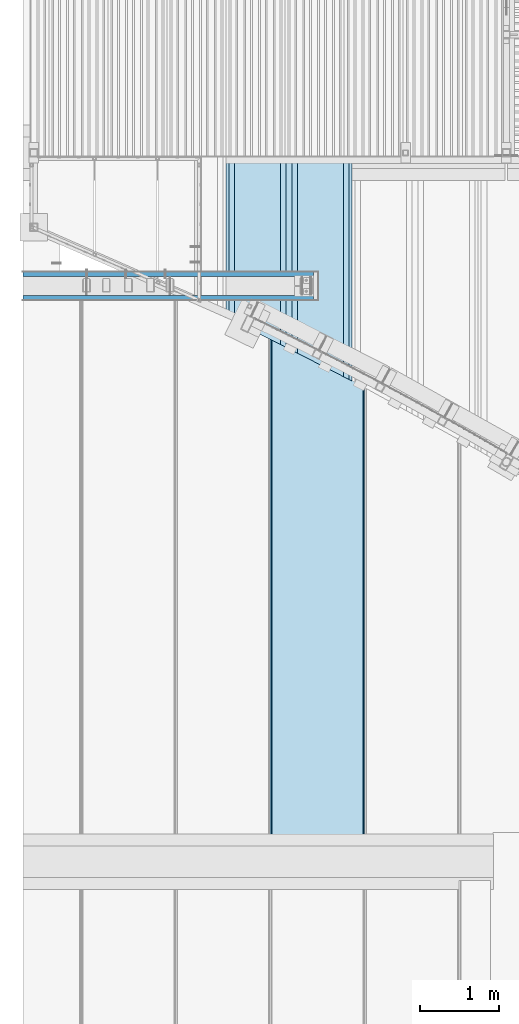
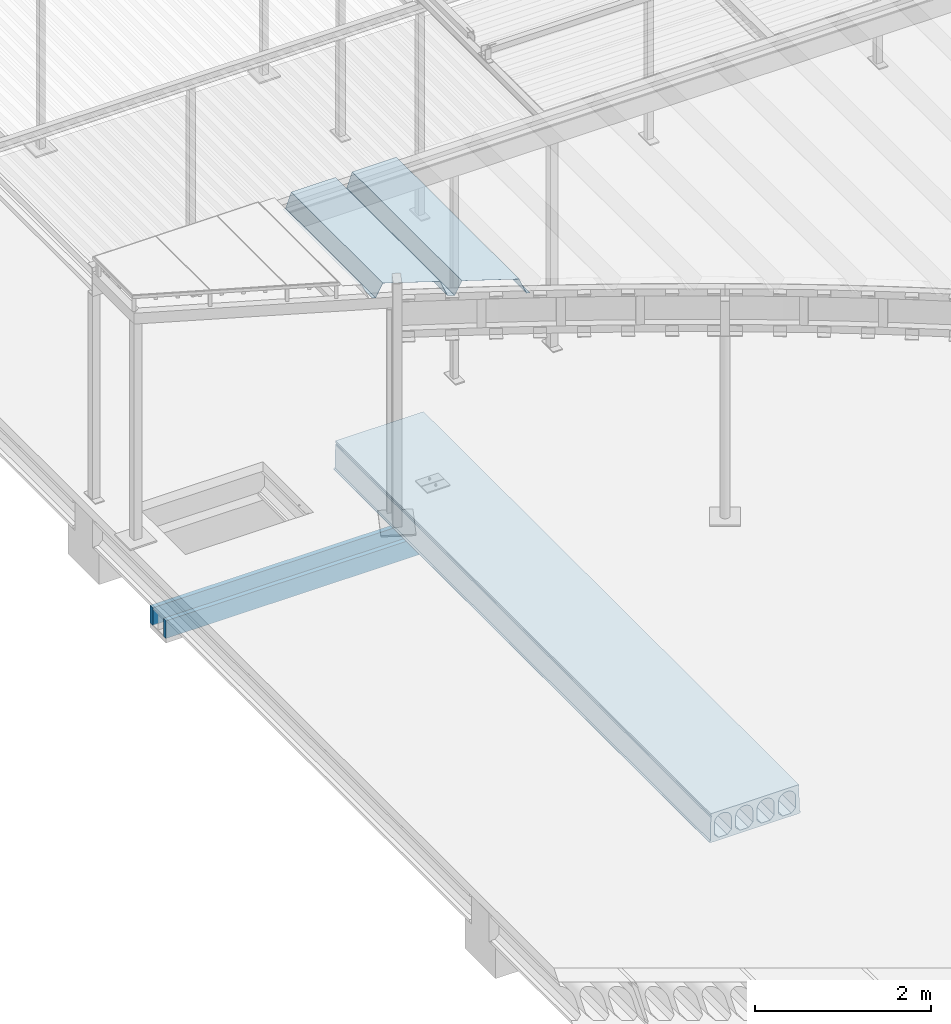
# One storey, part 55 of 98: 4 slabs.
"""IFC2X3 building model written with IfcOpenShell, lengths in millimetres."""

from ifc_helpers import new_model, entity, si_unit, converted_unit, derived_unit, direction, frame, origin_with_axes, place, context, subcontext, project, spatial, faceted_brep, material, type_object, element, save


model = new_model("IFC2X3")

# Units and contexts
model_context = context("Model", 3, precision=0.01, world=frame((0.0, 4.29681676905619e-09, 0.0)), true_north=direction((4.01073788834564e-13, 1.0)))
plan_context = context("Plan", 3, precision=0.01, world=frame((0.0, 4.29681676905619e-09, 0.0)), true_north=direction((4.01073788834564e-13, 1.0)))
body_context = subcontext(model_context, "Body", "Model", "MODEL_VIEW")
ifc_project = project(units=[converted_unit("PLANEANGLEUNIT", "DEGREE", entity("IfcPositiveLengthMeasure", 0.0174532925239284), si_unit("PLANEANGLEUNIT", "RADIAN"), dimensions=[0, 0, 0, 0, 0, 0, 0]), si_unit("AREAUNIT", "SQUARE_METRE"), si_unit("LENGTHUNIT", "METRE", prefix="MILLI"), si_unit("MASSUNIT", "GRAM", prefix="KILO"), si_unit("POWERUNIT", "WATT"), si_unit("PRESSUREUNIT", "PASCAL"), si_unit("FORCEUNIT", "NEWTON", prefix="KILO"), si_unit("ELECTRICCURRENTUNIT", "AMPERE"), si_unit("THERMODYNAMICTEMPERATUREUNIT", "DEGREE_CELSIUS"), si_unit("TIMEUNIT", "SECOND"), si_unit("VOLUMEUNIT", "CUBIC_METRE"), derived_unit("LINEARVELOCITYUNIT", [(si_unit("LENGTHUNIT", "METRE"), 1), (si_unit("TIMEUNIT", "SECOND"), -1)]), derived_unit("VOLUMETRICFLOWRATEUNIT", [(si_unit("VOLUMEUNIT", "CUBIC_METRE"), 1), (si_unit("TIMEUNIT", "SECOND"), -1)]), derived_unit("THERMALTRANSMITTANCEUNIT", [(si_unit("POWERUNIT", "WATT"), 1), (si_unit("THERMODYNAMICTEMPERATUREUNIT", "KELVIN"), -1), (si_unit("AREAUNIT", "SQUARE_METRE"), -1)])], contexts=[model_context, plan_context])

# Site, building, storey
site_placement = place(None, frame((0.0, -4.29681676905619e-09, 0.0), z_axis=(0.0, 0.0, 1.0), x_axis=(1.0, 0.0, 0.0)))
site = spatial("IfcSite", under=ifc_project, at=site_placement, Name="Gardermoen", CompositionType="ELEMENT")
building_placement = place(site_placement, frame((0.0, 4.29681676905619e-09, 0.0), z_axis=(0.0, 0.0, 1.0), x_axis=(1.0, 0.0, 0.0)))
building = spatial("IfcBuilding", under=site, at=building_placement, Name="TS", CompositionType="ELEMENT")
storey_placement = place(building_placement, origin_with_axes())
storey = spatial("IfcBuildingStorey", under=building, at=storey_placement, Name="D", CompositionType="ELEMENT", Elevation=0.0)

# Slabs
ifc_material_1 = material(Name="CONCRETE/C45/55")
slab_type_1 = type_object("IfcSlabType", Name="HD400", PredefinedType="NOTDEFINED")
slab_1_placement = place(storey_placement, frame((517599.999766, 405739.995625, 203600.0), z_axis=(0.0, 0.0, 1.0), x_axis=(0.0, 1.0, 0.0)))
element("IfcSlab", 1, at=slab_1_placement, inside=storey, type_object=slab_type_1, material=ifc_material_1, Name="HULLDEKKE", ObjectType="HD400", PredefinedType="FLOOR", context=body_context, shape_type="Brep", body=[
    faceted_brep([(0.0, 600.0, -190.0), (0.0, 600.0, -180.0), (8520.00875000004, 600.0, -180.0), (8520.00875000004, 600.0, -190.0), (0.0, 585.0, -170.0), (8520.00875000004, 585.0, -170.0), (0.0, 577.5, 145.0), (8520.00875000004, 577.5, 145.0), (0.0, 570.0, 160.0), (8520.00875000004, 570.0, 160.0), (0.0, 577.5, 175.0), (8520.00875000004, 577.5, 175.0), (0.0, 577.5, 200.0), (8520.00875000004, 577.5, 200.0), (0.0, -577.5, 200.0), (8520.00875000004, -577.5, 200.0), (0.0, -577.5, 175.0), (8520.00875000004, -577.5, 175.0), (0.0, -570.0, 160.0), (8520.00875000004, -570.0, 160.0), (0.0, -577.5, 145.0), (8520.00875000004, -577.5, 145.0), (0.0, -585.0, -170.0), (8520.00875000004, -585.0, -170.0), (0.0, -600.0, -180.0), (8520.00875000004, -600.0, -180.0), (0.0, -600.0, -190.0), (8520.00875000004, -600.0, -190.0), (0.0, -583.380004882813, -200.0), (8520.00875000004, -583.380004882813, -200.0), (0.0, 583.380004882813, -200.0), (8520.00875000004, 583.380004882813, -200.0), (0.0, -362.5, -160.0), (0.0, -477.5, -160.0), (8520.00875000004, -477.5, -160.0), (8520.00875000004, -362.5, -160.0), (0.0, -532.5, -105.0), (8520.00875000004, -532.5, -105.0), (0.0, -532.5, 47.5), (8520.00875000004, -532.5, 47.5), (0.0, -532.115755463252, 56.7901763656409), (8520.00875000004, -532.115755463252, 56.7901763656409), (0.0, -530.965646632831, 66.0168914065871), (8520.00875000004, -530.965646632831, 66.0168914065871), (0.0, -529.057529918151, 75.1171173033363), (8520.00875000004, -529.057529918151, 75.1171173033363), (0.0, -526.404439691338, 84.028690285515), (8520.00875000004, -526.404439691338, 84.028690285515), (0.0, -523.024499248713, 92.6907352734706), (8520.00875000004, -523.024499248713, 92.6907352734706), (0.0, -518.940797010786, 101.044081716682), (8520.00875000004, -518.940797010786, 101.044081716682), (0.0, -514.181228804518, 109.031667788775), (8520.00875000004, -514.181228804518, 109.031667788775), (0.0, -508.778307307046, 116.598930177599), (8520.00875000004, -508.778307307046, 116.598930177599), (0.0, -502.768939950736, 123.694176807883), (8520.00875000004, -502.768939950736, 123.694176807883), (0.0, -496.194176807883, 130.268939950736), (8520.00875000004, -496.194176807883, 130.268939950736), (0.0, -489.098930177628, 136.278307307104), (8520.00875000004, -489.098930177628, 136.278307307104), (0.0, -481.531667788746, 141.681228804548), (8520.00875000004, -481.531667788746, 141.681228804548), (0.0, -473.544081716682, 146.440797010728), (8520.00875000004, -473.544081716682, 146.440797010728), (0.0, -465.190735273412, 150.524499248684), (8520.00875000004, -465.190735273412, 150.524499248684), (0.0, -456.528690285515, 153.904439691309), (8520.00875000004, -456.528690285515, 153.904439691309), (0.0, -447.617117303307, 156.55752991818), (8520.00875000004, -447.617117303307, 156.55752991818), (0.0, -438.516891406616, 158.465646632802), (8520.00875000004, -438.516891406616, 158.465646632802), (0.0, -429.290176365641, 159.615755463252), (8520.00875000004, -429.290176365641, 159.615755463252), (0.0, -420.0, 160.0), (8520.00875000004, -420.0, 160.0), (0.0, -410.709823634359, 159.615755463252), (8520.00875000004, -410.709823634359, 159.615755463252), (0.0, -401.483108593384, 158.465646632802), (8520.00875000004, -401.483108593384, 158.465646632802), (0.0, -392.382882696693, 156.55752991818), (8520.00875000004, -392.382882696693, 156.55752991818), (0.0, -383.471309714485, 153.904439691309), (8520.00875000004, -383.471309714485, 153.904439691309), (0.0, -374.809264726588, 150.524499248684), (8520.00875000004, -374.809264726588, 150.524499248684), (0.0, -366.455918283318, 146.440797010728), (8520.00875000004, -366.455918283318, 146.440797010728), (0.0, -358.468332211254, 141.681228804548), (8520.00875000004, -358.468332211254, 141.681228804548), (0.0, -350.901069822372, 136.278307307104), (8520.00875000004, -350.901069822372, 136.278307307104), (0.0, -343.805823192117, 130.268939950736), (8520.00875000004, -343.805823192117, 130.268939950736), (0.0, -337.231060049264, 123.694176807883), (8520.00875000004, -337.231060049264, 123.694176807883), (0.0, -331.221692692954, 116.598930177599), (8520.00875000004, -331.221692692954, 116.598930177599), (0.0, -325.818771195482, 109.031667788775), (8520.00875000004, -325.818771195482, 109.031667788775), (0.0, -321.059202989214, 101.044081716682), (8520.00875000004, -321.059202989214, 101.044081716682), (0.0, -316.975500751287, 92.6907352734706), (8520.00875000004, -316.975500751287, 92.6907352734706), (0.0, -313.595560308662, 84.028690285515), (8520.00875000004, -313.595560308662, 84.028690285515), (0.0, -310.942470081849, 75.1171173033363), (8520.00875000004, -310.942470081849, 75.1171173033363), (0.0, -309.034353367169, 66.0168914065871), (8520.00875000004, -309.034353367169, 66.0168914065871), (0.0, -307.884244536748, 56.7901763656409), (8520.00875000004, -307.884244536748, 56.7901763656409), (0.0, -307.5, 47.5), (8520.00875000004, -307.5, 47.5), (0.0, -307.5, -105.0), (8520.00875000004, -307.5, -105.0), (0.0, -82.5, -160.0), (0.0, -197.5, -160.0), (8520.00875000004, -197.5, -160.0), (8520.00875000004, -82.5, -160.0), (0.0, -252.5, -105.0), (8520.00875000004, -252.5, -105.0), (0.0, -252.5, 47.5), (8520.00875000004, -252.5, 47.5), (0.0, -252.115755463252, 56.7901763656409), (8520.00875000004, -252.115755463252, 56.7901763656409), (0.0, -250.965646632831, 66.0168914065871), (8520.00875000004, -250.965646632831, 66.0168914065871), (0.0, -249.057529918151, 75.1171173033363), (8520.00875000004, -249.057529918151, 75.1171173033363), (0.0, -246.404439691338, 84.028690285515), (8520.00875000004, -246.404439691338, 84.028690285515), (0.0, -243.024499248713, 92.6907352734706), (8520.00875000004, -243.024499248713, 92.6907352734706), (0.0, -238.940797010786, 101.044081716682), (8520.00875000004, -238.940797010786, 101.044081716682), (0.0, -234.181228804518, 109.031667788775), (8520.00875000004, -234.181228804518, 109.031667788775), (0.0, -228.778307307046, 116.598930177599), (8520.00875000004, -228.778307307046, 116.598930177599), (0.0, -222.768939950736, 123.694176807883), (8520.00875000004, -222.768939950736, 123.694176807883), (0.0, -216.194176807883, 130.268939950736), (8520.00875000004, -216.194176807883, 130.268939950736), (0.0, -209.098930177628, 136.278307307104), (8520.00875000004, -209.098930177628, 136.278307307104), (0.0, -201.531667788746, 141.681228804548), (8520.00875000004, -201.531667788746, 141.681228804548), (0.0, -193.544081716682, 146.440797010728), (8520.00875000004, -193.544081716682, 146.440797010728), (0.0, -185.190735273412, 150.524499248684), (8520.00875000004, -185.190735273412, 150.524499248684), (0.0, -176.528690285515, 153.904439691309), (8520.00875000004, -176.528690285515, 153.904439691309), (0.0, -167.617117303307, 156.55752991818), (8520.00875000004, -167.617117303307, 156.55752991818), (0.0, -158.516891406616, 158.465646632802), (8520.00875000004, -158.516891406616, 158.465646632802), (0.0, -149.290176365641, 159.615755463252), (8520.00875000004, -149.290176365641, 159.615755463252), (0.0, -140.0, 160.0), (8520.00875000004, -140.0, 160.0), (0.0, -130.709823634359, 159.615755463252), (8520.00875000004, -130.709823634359, 159.615755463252), (0.0, -121.483108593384, 158.465646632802), (8520.00875000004, -121.483108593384, 158.465646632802), (0.0, -112.382882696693, 156.55752991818), (8520.00875000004, -112.382882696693, 156.55752991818), (0.0, -103.471309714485, 153.904439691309), (8520.00875000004, -103.471309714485, 153.904439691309), (0.0, -94.8092647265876, 150.524499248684), (8520.00875000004, -94.8092647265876, 150.524499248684), (0.0, -86.4559182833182, 146.440797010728), (8520.00875000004, -86.4559182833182, 146.440797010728), (0.0, -78.4683322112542, 141.681228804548), (8520.00875000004, -78.4683322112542, 141.681228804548), (0.0, -70.9010698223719, 136.278307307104), (8520.00875000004, -70.9010698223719, 136.278307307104), (0.0, -63.8058231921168, 130.268939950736), (8520.00875000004, -63.8058231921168, 130.268939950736), (0.0, -57.2310600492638, 123.694176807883), (8520.00875000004, -57.2310600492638, 123.694176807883), (0.0, -51.2216926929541, 116.598930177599), (8520.00875000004, -51.2216926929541, 116.598930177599), (0.0, -45.8187711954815, 109.031667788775), (8520.00875000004, -45.8187711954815, 109.031667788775), (0.0, -41.0592029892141, 101.044081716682), (8520.00875000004, -41.0592029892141, 101.044081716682), (0.0, -36.9755007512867, 92.6907352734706), (8520.00875000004, -36.9755007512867, 92.6907352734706), (0.0, -33.5955603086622, 84.028690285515), (8520.00875000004, -33.5955603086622, 84.028690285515), (0.0, -30.942470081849, 75.1171173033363), (8520.00875000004, -30.942470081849, 75.1171173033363), (0.0, -29.0343533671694, 66.0168914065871), (8520.00875000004, -29.0343533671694, 66.0168914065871), (0.0, -27.8842445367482, 56.7901763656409), (8520.00875000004, -27.8842445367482, 56.7901763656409), (0.0, -27.5, 47.5), (8520.00875000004, -27.5, 47.5), (0.0, -27.5, -105.0), (8520.00875000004, -27.5, -105.0), (0.0, 197.5, -160.0), (0.0, 82.5, -160.0), (8520.00875000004, 82.5, -160.0), (8520.00875000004, 197.5, -160.0), (0.0, 27.5, -105.0), (8520.00875000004, 27.5, -105.0), (0.0, 27.5, 47.5), (8520.00875000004, 27.5, 47.5), (0.0, 27.8842445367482, 56.7901763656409), (8520.00875000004, 27.8842445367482, 56.7901763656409), (0.0, 29.0343533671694, 66.0168914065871), (8520.00875000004, 29.0343533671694, 66.0168914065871), (0.0, 30.942470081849, 75.1171173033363), (8520.00875000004, 30.942470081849, 75.1171173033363), (0.0, 33.5955603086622, 84.028690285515), (8520.00875000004, 33.5955603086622, 84.028690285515), (0.0, 36.9755007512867, 92.6907352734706), (8520.00875000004, 36.9755007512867, 92.6907352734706), (0.0, 41.0592029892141, 101.044081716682), (8520.00875000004, 41.0592029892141, 101.044081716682), (0.0, 45.8187711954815, 109.031667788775), (8520.00875000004, 45.8187711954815, 109.031667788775), (0.0, 51.2216926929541, 116.598930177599), (8520.00875000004, 51.2216926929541, 116.598930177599), (0.0, 57.2310600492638, 123.694176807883), (8520.00875000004, 57.2310600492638, 123.694176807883), (0.0, 63.8058231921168, 130.268939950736), (8520.00875000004, 63.8058231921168, 130.268939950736), (0.0, 70.9010698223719, 136.278307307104), (8520.00875000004, 70.9010698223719, 136.278307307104), (0.0, 78.4683322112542, 141.681228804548), (8520.00875000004, 78.4683322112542, 141.681228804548), (0.0, 86.4559182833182, 146.440797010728), (8520.00875000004, 86.4559182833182, 146.440797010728), (0.0, 94.8092647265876, 150.524499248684), (8520.00875000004, 94.8092647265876, 150.524499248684), (0.0, 103.471309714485, 153.904439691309), (8520.00875000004, 103.471309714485, 153.904439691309), (0.0, 112.382882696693, 156.55752991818), (8520.00875000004, 112.382882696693, 156.55752991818), (0.0, 121.483108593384, 158.465646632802), (8520.00875000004, 121.483108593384, 158.465646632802), (0.0, 130.709823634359, 159.615755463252), (8520.00875000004, 130.709823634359, 159.615755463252), (0.0, 140.0, 160.0), (8520.00875000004, 140.0, 160.0), (0.0, 149.290176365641, 159.615755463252), (8520.00875000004, 149.290176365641, 159.615755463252), (0.0, 158.516891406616, 158.465646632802), (8520.00875000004, 158.516891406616, 158.465646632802), (0.0, 167.617117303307, 156.55752991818), (8520.00875000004, 167.617117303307, 156.55752991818), (0.0, 176.528690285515, 153.904439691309), (8520.00875000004, 176.528690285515, 153.904439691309), (0.0, 185.190735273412, 150.524499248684), (8520.00875000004, 185.190735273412, 150.524499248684), (0.0, 193.544081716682, 146.440797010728), (8520.00875000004, 193.544081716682, 146.440797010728), (0.0, 201.531667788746, 141.681228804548), (8520.00875000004, 201.531667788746, 141.681228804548), (0.0, 209.098930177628, 136.278307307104), (8520.00875000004, 209.098930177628, 136.278307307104), (0.0, 216.194176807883, 130.268939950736), (8520.00875000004, 216.194176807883, 130.268939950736), (0.0, 222.768939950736, 123.694176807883), (8520.00875000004, 222.768939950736, 123.694176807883), (0.0, 228.778307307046, 116.598930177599), (8520.00875000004, 228.778307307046, 116.598930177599), (0.0, 234.181228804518, 109.031667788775), (8520.00875000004, 234.181228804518, 109.031667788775), (0.0, 238.940797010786, 101.044081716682), (8520.00875000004, 238.940797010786, 101.044081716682), (0.0, 243.024499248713, 92.6907352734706), (8520.00875000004, 243.024499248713, 92.6907352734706), (0.0, 246.404439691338, 84.028690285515), (8520.00875000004, 246.404439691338, 84.028690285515), (0.0, 249.057529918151, 75.1171173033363), (8520.00875000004, 249.057529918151, 75.1171173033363), (0.0, 250.965646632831, 66.0168914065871), (8520.00875000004, 250.965646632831, 66.0168914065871), (0.0, 252.115755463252, 56.7901763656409), (8520.00875000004, 252.115755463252, 56.7901763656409), (0.0, 252.5, 47.5), (8520.00875000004, 252.5, 47.5), (0.0, 252.5, -105.0), (8520.00875000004, 252.5, -105.0), (0.0, 477.5, -160.0), (0.0, 362.5, -160.0), (8520.00875000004, 362.5, -160.0), (8520.00875000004, 477.5, -160.0), (0.0, 307.5, -105.0), (8520.00875000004, 307.5, -105.0), (0.0, 307.5, 47.5), (8520.00875000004, 307.5, 47.5), (0.0, 307.884244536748, 56.7901763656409), (8520.00875000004, 307.884244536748, 56.7901763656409), (0.0, 309.034353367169, 66.0168914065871), (8520.00875000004, 309.034353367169, 66.0168914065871), (0.0, 310.942470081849, 75.1171173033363), (8520.00875000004, 310.942470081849, 75.1171173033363), (0.0, 313.595560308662, 84.028690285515), (8520.00875000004, 313.595560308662, 84.028690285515), (0.0, 316.975500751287, 92.6907352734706), (8520.00875000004, 316.975500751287, 92.6907352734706), (0.0, 321.059202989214, 101.044081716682), (8520.00875000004, 321.059202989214, 101.044081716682), (0.0, 325.818771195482, 109.031667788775), (8520.00875000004, 325.818771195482, 109.031667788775), (0.0, 331.221692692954, 116.598930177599), (8520.00875000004, 331.221692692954, 116.598930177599), (0.0, 337.231060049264, 123.694176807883), (8520.00875000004, 337.231060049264, 123.694176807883), (0.0, 343.805823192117, 130.268939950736), (8520.00875000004, 343.805823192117, 130.268939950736), (0.0, 350.901069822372, 136.278307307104), (8520.00875000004, 350.901069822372, 136.278307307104), (0.0, 358.468332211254, 141.681228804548), (8520.00875000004, 358.468332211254, 141.681228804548), (0.0, 366.455918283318, 146.440797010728), (8520.00875000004, 366.455918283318, 146.440797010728), (0.0, 374.809264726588, 150.524499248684), (8520.00875000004, 374.809264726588, 150.524499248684), (0.0, 383.471309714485, 153.904439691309), (8520.00875000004, 383.471309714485, 153.904439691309), (0.0, 392.382882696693, 156.55752991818), (8520.00875000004, 392.382882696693, 156.55752991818), (0.0, 401.483108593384, 158.465646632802), (8520.00875000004, 401.483108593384, 158.465646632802), (0.0, 410.709823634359, 159.615755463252), (8520.00875000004, 410.709823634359, 159.615755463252), (0.0, 420.0, 160.0), (8520.00875000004, 420.0, 160.0), (0.0, 429.290176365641, 159.615755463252), (8520.00875000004, 429.290176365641, 159.615755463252), (0.0, 438.516891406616, 158.465646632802), (8520.00875000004, 438.516891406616, 158.465646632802), (0.0, 447.617117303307, 156.55752991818), (8520.00875000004, 447.617117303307, 156.55752991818), (0.0, 456.528690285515, 153.904439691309), (8520.00875000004, 456.528690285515, 153.904439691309), (0.0, 465.190735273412, 150.524499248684), (8520.00875000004, 465.190735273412, 150.524499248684), (0.0, 473.544081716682, 146.440797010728), (8520.00875000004, 473.544081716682, 146.440797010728), (0.0, 481.531667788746, 141.681228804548), (8520.00875000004, 481.531667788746, 141.681228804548), (0.0, 489.098930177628, 136.278307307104), (8520.00875000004, 489.098930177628, 136.278307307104), (0.0, 496.194176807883, 130.268939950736), (8520.00875000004, 496.194176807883, 130.268939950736), (0.0, 502.768939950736, 123.694176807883), (8520.00875000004, 502.768939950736, 123.694176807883), (0.0, 508.778307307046, 116.598930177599), (8520.00875000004, 508.778307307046, 116.598930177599), (0.0, 514.181228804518, 109.031667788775), (8520.00875000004, 514.181228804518, 109.031667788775), (0.0, 518.940797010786, 101.044081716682), (8520.00875000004, 518.940797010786, 101.044081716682), (0.0, 523.024499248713, 92.6907352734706), (8520.00875000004, 523.024499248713, 92.6907352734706), (0.0, 526.404439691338, 84.028690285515), (8520.00875000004, 526.404439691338, 84.028690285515), (0.0, 529.057529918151, 75.1171173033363), (8520.00875000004, 529.057529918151, 75.1171173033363), (0.0, 530.965646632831, 66.0168914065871), (8520.00875000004, 530.965646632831, 66.0168914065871), (0.0, 532.115755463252, 56.7901763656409), (8520.00875000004, 532.115755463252, 56.7901763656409), (0.0, 532.5, 47.5), (8520.00875000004, 532.5, 47.5), (0.0, 532.5, -105.0), (8520.00875000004, 532.5, -105.0)], [[[0, 1, 2, 3]], [[1, 4, 5, 2]], [[4, 6, 7, 5]], [[6, 8, 9, 7]], [[8, 10, 11, 9]], [[10, 12, 13, 11]], [[12, 14, 15, 13]], [[14, 16, 17, 15]], [[16, 18, 19, 17]], [[18, 20, 21, 19]], [[20, 22, 23, 21]], [[22, 24, 25, 23]], [[24, 26, 27, 25]], [[26, 28, 29, 27]], [[28, 30, 31, 29]], [[30, 0, 3, 31]], [[32, 33, 34, 35]], [[33, 36, 37, 34]], [[36, 38, 39, 37]], [[38, 40, 41, 39]], [[40, 42, 43, 41]], [[42, 44, 45, 43]], [[44, 46, 47, 45]], [[46, 48, 49, 47]], [[48, 50, 51, 49]], [[50, 52, 53, 51]], [[52, 54, 55, 53]], [[54, 56, 57, 55]], [[56, 58, 59, 57]], [[58, 60, 61, 59]], [[60, 62, 63, 61]], [[62, 64, 65, 63]], [[64, 66, 67, 65]], [[66, 68, 69, 67]], [[68, 70, 71, 69]], [[70, 72, 73, 71]], [[72, 74, 75, 73]], [[74, 76, 77, 75]], [[76, 78, 79, 77]], [[78, 80, 81, 79]], [[80, 82, 83, 81]], [[82, 84, 85, 83]], [[84, 86, 87, 85]], [[86, 88, 89, 87]], [[88, 90, 91, 89]], [[90, 92, 93, 91]], [[92, 94, 95, 93]], [[94, 96, 97, 95]], [[96, 98, 99, 97]], [[98, 100, 101, 99]], [[100, 102, 103, 101]], [[102, 104, 105, 103]], [[104, 106, 107, 105]], [[106, 108, 109, 107]], [[108, 110, 111, 109]], [[110, 112, 113, 111]], [[112, 114, 115, 113]], [[114, 116, 117, 115]], [[116, 32, 35, 117]], [[118, 119, 120, 121]], [[119, 122, 123, 120]], [[122, 124, 125, 123]], [[124, 126, 127, 125]], [[126, 128, 129, 127]], [[128, 130, 131, 129]], [[130, 132, 133, 131]], [[132, 134, 135, 133]], [[134, 136, 137, 135]], [[136, 138, 139, 137]], [[138, 140, 141, 139]], [[140, 142, 143, 141]], [[142, 144, 145, 143]], [[144, 146, 147, 145]], [[146, 148, 149, 147]], [[148, 150, 151, 149]], [[150, 152, 153, 151]], [[152, 154, 155, 153]], [[154, 156, 157, 155]], [[156, 158, 159, 157]], [[158, 160, 161, 159]], [[160, 162, 163, 161]], [[162, 164, 165, 163]], [[164, 166, 167, 165]], [[166, 168, 169, 167]], [[168, 170, 171, 169]], [[170, 172, 173, 171]], [[172, 174, 175, 173]], [[174, 176, 177, 175]], [[176, 178, 179, 177]], [[178, 180, 181, 179]], [[180, 182, 183, 181]], [[182, 184, 185, 183]], [[184, 186, 187, 185]], [[186, 188, 189, 187]], [[188, 190, 191, 189]], [[190, 192, 193, 191]], [[192, 194, 195, 193]], [[194, 196, 197, 195]], [[196, 198, 199, 197]], [[198, 200, 201, 199]], [[200, 202, 203, 201]], [[202, 118, 121, 203]], [[204, 205, 206, 207]], [[205, 208, 209, 206]], [[208, 210, 211, 209]], [[210, 212, 213, 211]], [[212, 214, 215, 213]], [[214, 216, 217, 215]], [[216, 218, 219, 217]], [[218, 220, 221, 219]], [[220, 222, 223, 221]], [[222, 224, 225, 223]], [[224, 226, 227, 225]], [[226, 228, 229, 227]], [[228, 230, 231, 229]], [[230, 232, 233, 231]], [[232, 234, 235, 233]], [[234, 236, 237, 235]], [[236, 238, 239, 237]], [[238, 240, 241, 239]], [[240, 242, 243, 241]], [[242, 244, 245, 243]], [[244, 246, 247, 245]], [[246, 248, 249, 247]], [[248, 250, 251, 249]], [[250, 252, 253, 251]], [[252, 254, 255, 253]], [[254, 256, 257, 255]], [[256, 258, 259, 257]], [[258, 260, 261, 259]], [[260, 262, 263, 261]], [[262, 264, 265, 263]], [[264, 266, 267, 265]], [[266, 268, 269, 267]], [[268, 270, 271, 269]], [[270, 272, 273, 271]], [[272, 274, 275, 273]], [[274, 276, 277, 275]], [[276, 278, 279, 277]], [[278, 280, 281, 279]], [[280, 282, 283, 281]], [[282, 284, 285, 283]], [[284, 286, 287, 285]], [[286, 288, 289, 287]], [[288, 204, 207, 289]], [[290, 291, 292, 293]], [[291, 294, 295, 292]], [[294, 296, 297, 295]], [[296, 298, 299, 297]], [[298, 300, 301, 299]], [[300, 302, 303, 301]], [[302, 304, 305, 303]], [[304, 306, 307, 305]], [[306, 308, 309, 307]], [[308, 310, 311, 309]], [[310, 312, 313, 311]], [[312, 314, 315, 313]], [[314, 316, 317, 315]], [[316, 318, 319, 317]], [[318, 320, 321, 319]], [[320, 322, 323, 321]], [[322, 324, 325, 323]], [[324, 326, 327, 325]], [[326, 328, 329, 327]], [[328, 330, 331, 329]], [[330, 332, 333, 331]], [[332, 334, 335, 333]], [[334, 336, 337, 335]], [[336, 338, 339, 337]], [[338, 340, 341, 339]], [[340, 342, 343, 341]], [[342, 344, 345, 343]], [[344, 346, 347, 345]], [[346, 348, 349, 347]], [[348, 350, 351, 349]], [[350, 352, 353, 351]], [[352, 354, 355, 353]], [[354, 356, 357, 355]], [[356, 358, 359, 357]], [[358, 360, 361, 359]], [[360, 362, 363, 361]], [[362, 364, 365, 363]], [[364, 366, 367, 365]], [[366, 368, 369, 367]], [[368, 370, 371, 369]], [[370, 372, 373, 371]], [[372, 374, 375, 373]], [[374, 290, 293, 375]], [[5, 7, 9, 11, 13, 15, 17, 19, 21, 23, 25, 27, 29, 31, 3, 2], [295, 297, 299, 301, 303, 305, 307, 309, 311, 313, 315, 317, 319, 321, 323, 325, 327, 329, 331, 333, 335, 337, 339, 341, 343, 345, 347, 349, 351, 353, 355, 357, 359, 361, 363, 365, 367, 369, 371, 373, 375, 293, 292], [209, 211, 213, 215, 217, 219, 221, 223, 225, 227, 229, 231, 233, 235, 237, 239, 241, 243, 245, 247, 249, 251, 253, 255, 257, 259, 261, 263, 265, 267, 269, 271, 273, 275, 277, 279, 281, 283, 285, 287, 289, 207, 206], [123, 125, 127, 129, 131, 133, 135, 137, 139, 141, 143, 145, 147, 149, 151, 153, 155, 157, 159, 161, 163, 165, 167, 169, 171, 173, 175, 177, 179, 181, 183, 185, 187, 189, 191, 193, 195, 197, 199, 201, 203, 121, 120], [37, 39, 41, 43, 45, 47, 49, 51, 53, 55, 57, 59, 61, 63, 65, 67, 69, 71, 73, 75, 77, 79, 81, 83, 85, 87, 89, 91, 93, 95, 97, 99, 101, 103, 105, 107, 109, 111, 113, 115, 117, 35, 34]], [[30, 28, 26, 24, 22, 20, 18, 16, 14, 12, 10, 8, 6, 4, 1, 0], [374, 372, 370, 368, 366, 364, 362, 360, 358, 356, 354, 352, 350, 348, 346, 344, 342, 340, 338, 336, 334, 332, 330, 328, 326, 324, 322, 320, 318, 316, 314, 312, 310, 308, 306, 304, 302, 300, 298, 296, 294, 291, 290], [288, 286, 284, 282, 280, 278, 276, 274, 272, 270, 268, 266, 264, 262, 260, 258, 256, 254, 252, 250, 248, 246, 244, 242, 240, 238, 236, 234, 232, 230, 228, 226, 224, 222, 220, 218, 216, 214, 212, 210, 208, 205, 204], [202, 200, 198, 196, 194, 192, 190, 188, 186, 184, 182, 180, 178, 176, 174, 172, 170, 168, 166, 164, 162, 160, 158, 156, 154, 152, 150, 148, 146, 144, 142, 140, 138, 136, 134, 132, 130, 128, 126, 124, 122, 119, 118], [116, 114, 112, 110, 108, 106, 104, 102, 100, 98, 96, 94, 92, 90, 88, 86, 84, 82, 80, 78, 76, 74, 72, 70, 68, 66, 64, 62, 60, 58, 56, 54, 52, 50, 48, 46, 44, 42, 40, 38, 36, 33, 32]]]),
])
slab_type_2 = type_object("IfcSlabType", Name="60*245", PredefinedType="NOTDEFINED")
for number, where, z_axis, x_axis, name in (
    (2, (512849.999766, 412959.999991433, 203155.0), (1.0, 0.0, 0.0), (0.0, 0.0, 1.0), "ISOLASJON"),
    (3, (512849.999766, 412659.999991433, 203400.0), (1.0, 0.0, 0.0), (0.0, 0.0, -1.0), "ISOLASJON"),
):
    element("IfcSlab", number, at=place(storey_placement, frame(where, z_axis=z_axis, x_axis=x_axis)), inside=storey, type_object=slab_type_2, Name=name, ObjectType="60*245", PredefinedType="FLOOR", context=body_context, shape_type="Brep", body=[
        faceted_brep([(-1.2044031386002e-10, -30.0, 1012.50023400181), (-1.2044031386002e-10, 30.0, 1012.50023400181), (-2.91038304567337e-11, 30.0, 4700.0), (-2.91038304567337e-11, -30.0, 4700.0), (245.0, 30.0, 4700.0), (245.0, -30.0, 4700.0), (245.0, 30.0, 1012.50023400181), (245.0, -30.0, 1012.50023400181)], [[[0, 1, 2, 3]], [[2, 4, 5, 3]], [[6, 7, 5, 4]], [[1, 6, 4, 2]], [[7, 0, 3, 5]], [[7, 6, 1, 0]]], orient=[[False], [False], [False], [False], [False], [False]]),
    ])
ifc_material_2 = material(Name="STEEL/S355")
slab_type_3 = type_object("IfcSlabType", Name="PLANNJA200", PredefinedType="NOTDEFINED")
slab_2_placement = place(storey_placement, frame((517240.35, 412395.84, 207199.0), z_axis=(0.0, 0.0, 1.0), x_axis=(0.0, 1.0, 0.0)))
element("IfcSlab", 4, at=slab_2_placement, inside=storey, type_object=slab_type_3, material=ifc_material_2, Name="STÅLTAK", ObjectType="PLANNJA200", PredefinedType="FLOOR", context=body_context, shape_type="Brep", body=[
    faceted_brep([(21.9662314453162, 800.0, -98.5), (3.22534681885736, 763.196472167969, -98.5), (2049.13999999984, 763.196472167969, -98.5), (2049.13999999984, 800.0, -98.5), (-34.0473474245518, 690.0, 99.5), (2049.13999999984, 690.0, 99.5), (-329.391672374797, 110.0, 99.5), (2049.13999999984, 110.0, 99.5), (-366.664362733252, 36.8035354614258, -98.5), (2049.13999999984, 36.8035354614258, -98.5), (-404.146139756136, -36.8035354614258, -98.5), (2049.13999999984, -36.8035354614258, -98.5), (-441.418830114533, -110.0, 99.5), (2049.13999999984, -110.0, 99.5), (-736.763155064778, -690.0, 99.5), (2049.13999999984, -690.0, 99.5), (-774.035849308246, -763.196472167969, -98.5), (2049.13999999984, -763.196472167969, -98.5), (-792.776733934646, -800.0, -98.5), (2049.13999999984, -800.0, -98.5), (-792.776733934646, -800.0, -99.5), (2049.13999999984, -800.0, -99.5), (-773.681195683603, -762.5, -99.5), (2049.13999999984, -762.5, -99.5), (-736.408501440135, -689.303527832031, 98.5), (2049.13999999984, -689.303527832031, 98.5), (-441.773479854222, -110.696464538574, 98.5), (2049.13999999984, -110.696464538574, 98.5), (-404.500789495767, -37.5, -99.5), (2049.13999999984, -37.5, -99.5), (-366.309712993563, 37.5, -99.5), (2049.13999999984, 37.5, -99.5), (-329.037022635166, 110.696464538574, 98.5), (2049.13999999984, 110.696464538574, 98.5), (-34.402001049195, 689.303527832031, 98.5), (2049.13999999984, 689.303527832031, 98.5), (2.87069319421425, 762.5, -99.5), (2049.13999999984, 762.5, -99.5), (21.9662314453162, 800.0, -99.5), (2049.13999999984, 800.0, -99.5)], [[[0, 1, 2, 3]], [[1, 4, 5, 2]], [[4, 6, 7, 5]], [[6, 8, 9, 7]], [[8, 10, 11, 9]], [[10, 12, 13, 11]], [[12, 14, 15, 13]], [[14, 16, 17, 15]], [[16, 18, 19, 17]], [[18, 20, 21, 19]], [[20, 22, 23, 21]], [[22, 24, 25, 23]], [[24, 26, 27, 25]], [[26, 28, 29, 27]], [[28, 30, 31, 29]], [[30, 32, 33, 31]], [[32, 34, 35, 33]], [[34, 36, 37, 35]], [[36, 38, 39, 37]], [[38, 0, 3, 39]], [[5, 7, 9, 11, 13, 15, 17, 19, 21, 23, 25, 27, 29, 31, 33, 35, 37, 39, 3, 2]], [[38, 36, 34, 32, 30, 28, 26, 24, 22, 20, 18, 16, 14, 12, 10, 8, 6, 4, 1, 0]]]),
])

save(model, "model.ifc")
